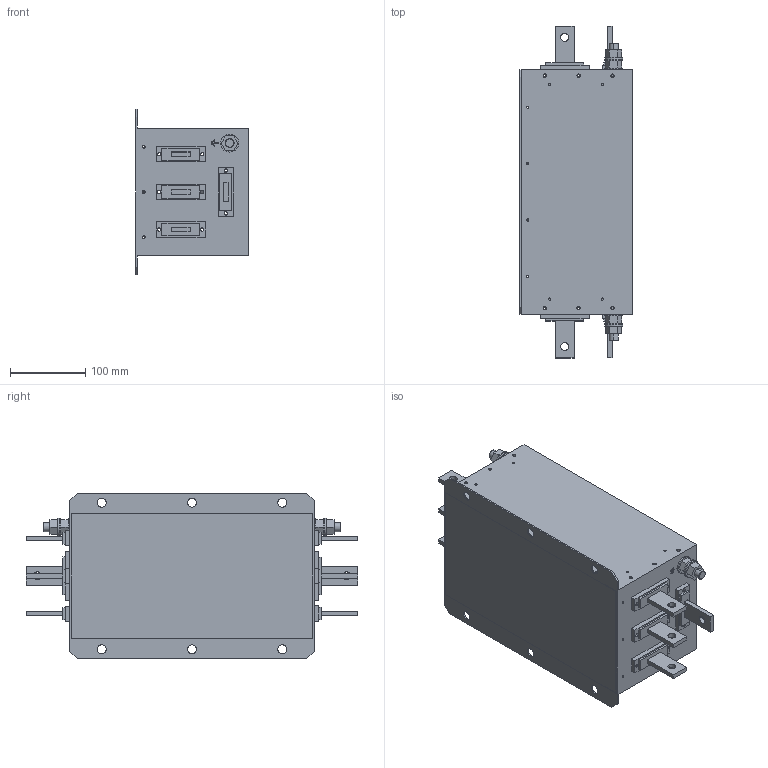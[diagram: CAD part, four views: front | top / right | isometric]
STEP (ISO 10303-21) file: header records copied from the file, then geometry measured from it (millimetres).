
FILE_DESCRIPTION (( 'STEP AP214' ), '1' );
FILE_NAME ('NF-4-400-HTR.STEP', '2026-09-23T08:08:21', ( '' ), ( '' ), 'SwSTEP 2.0', 'SolidWorks 2025', '' );
FILE_SCHEMA (( 'AUTOMOTIVE_DESIGN' ));
Length unit declared in the file: millimetre
Products named in the file (8): Part1_1; Part2_1; 5343_1; RFERF_1; NF-4-400-HTR; NF-4-400_2; Imported4_1; Imported2_1
Assembly tree (17 placements, depth 3):
  NF-4-400-HTR
    NF-4-400_2
      Part1_1
      Imported2_1  x8
      Part2_1
      Imported4_1  x2
      5343_1
      RFERF_1  x3
Bounding box: 150 x 441 x 220 mm (x, y, z)
Volume: 983101.8 mm3; surface area: 745978.4 mm2
Topology: 16 solids, 18 shells, 840 faces, 2092 edges, 1384 vertices
Faces by surface type: plane 436, cylinder 360, cone 44
Entity records: 17822 total; most frequent: DIRECTION 3224, CARTESIAN_POINT 2944, ORIENTED_EDGE 2832, EDGE_CURVE 1416, AXIS2_PLACEMENT_3D 1216, VERTEX_POINT 936, EDGE_LOOP 816, LINE 792
